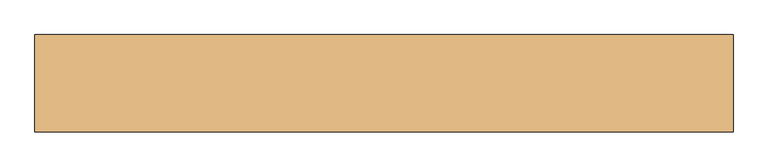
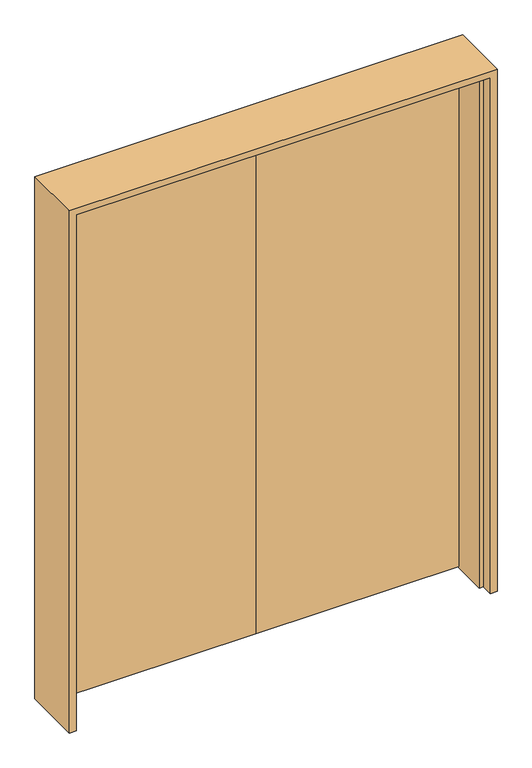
"""IFC4 building model written with IfcOpenShell, lengths in millimetres: door geometry, B1 両開 フラッシュ_A1枠 : SD12-H2000W1500 2."""

import ifcopenshell
import ifcopenshell.guid

model = None  # the IFC model being written
_history = None  # IfcOwnerHistory: only IFC2X3 demands one
_inside = {}  # id of a spatial element -> (the spatial element, [elements in it])
_under = {}  # id of a project, library or spatial element -> (it, [spatial elements below it])
_declared = {}  # id of a project -> (the project, [libraries it declares])
_typed = {}  # id of a type object -> (the type object, [elements of that type])
_made_of = {}  # id of a material, layer set ... -> (it, [elements and type objects made of it])


def new_model(schema):
    """Start an empty IFC model of exactly this schema.

    Asked for "IFC4X3", IfcOpenShell would pick the latest addendum, in which some entities
    have other attributes; the version numbers below select the first issue.
    IFC2X3 requires an IfcOwnerHistory on every rooted entity: one is made here for all.
    """
    global model, _history
    if schema == "IFC4X3":
        model = ifcopenshell.file(schema_version=(4, 3, 0, 0))
    else:
        model = ifcopenshell.file(schema=schema)
    _inside.clear()
    _under.clear()
    _declared.clear()
    _typed.clear()
    _made_of.clear()
    _history = None
    if model.schema == "IFC2X3":
        org = make("IfcOrganization", Name="unknown")
        user = make(
            "IfcPersonAndOrganization",
            ThePerson=make("IfcPerson", FamilyName="unknown"),
            TheOrganization=org,
        )
        app = make(
            "IfcApplication",
            ApplicationDeveloper=org,
            Version="unknown",
            ApplicationFullName="unknown",
            ApplicationIdentifier="unknown",
        )
        _history = make(
            "IfcOwnerHistory",
            OwningUser=user,
            OwningApplication=app,
            ChangeAction="ADDED",
            CreationDate=0,
        )
    return model


def make(cls, **values):
    """One entity of the class cls with the attributes given. An attribute that is None is left unset."""
    return model.create_entity(
        cls, **{name: value for name, value in values.items() if value is not None}
    )


def rooted(cls, **values):
    """An entity with a GlobalId (a new one), such as an element, a storey or a relation."""
    return make(cls, GlobalId=ifcopenshell.guid.new(), OwnerHistory=_history, **values)


def si_unit(unit_type, name, prefix=None):
    """IfcSIUnit, for example si_unit("LENGTHUNIT", "METRE", prefix="MILLI")."""
    return make("IfcSIUnit", UnitType=unit_type, Prefix=prefix, Name=name)


def assignment(units):
    """IfcUnitAssignment: the units of a project."""
    return None if units is None else make("IfcUnitAssignment", Units=units)


def point(xyz):
    """IfcCartesianPoint."""
    return None if xyz is None else make("IfcCartesianPoint", Coordinates=xyz)


def direction(xyz):
    """IfcDirection."""
    return None if xyz is None else make("IfcDirection", DirectionRatios=xyz)


def frame(location, z_axis=None, x_axis=None):
    """IfcAxis2Placement3D, a coordinate frame: its origin and axes. An axis left out is left unset."""
    return make(
        "IfcAxis2Placement3D",
        Location=point(location),
        Axis=direction(z_axis),
        RefDirection=direction(x_axis),
    )


def origin():
    """The frame at (0, 0, 0) with its axes left unset."""
    return frame((0.0, 0.0, 0.0))


def place(relative_to, where):
    """IfcLocalPlacement: puts the frame where relative to a parent placement (None: the world)."""
    return make(
        "IfcLocalPlacement", PlacementRelTo=relative_to, RelativePlacement=where
    )


def context(
    kind, dimensions, precision=None, world=None, true_north=None, identifier=None
):
    """IfcGeometricRepresentationContext, for example the 3D "Model" context."""
    return make(
        "IfcGeometricRepresentationContext",
        ContextIdentifier=identifier,
        ContextType=kind,
        CoordinateSpaceDimension=dimensions,
        Precision=precision,
        WorldCoordinateSystem=world,
        TrueNorth=true_north,
    )


def project(units=None, contexts=None):
    """IfcProject with its units and contexts."""
    return rooted(
        "IfcProject",
        Name="project",
        RepresentationContexts=contexts,
        UnitsInContext=assignment(units),
    )


def spatial(cls, under=None, at=None, **own):
    """A site, building, storey or space (cls), placed at a placement, below another one or the project."""
    s = rooted(cls, ObjectPlacement=at, **own)
    if under is not None:
        _under.setdefault(under.id(), (under, []))[1].append(s)
    return s


def polyline(points):
    """IfcPolyline through the points."""
    return make("IfcPolyline", Points=[point(p) for p in points])


def outline(outer, holes=None, kind="AREA"):
    """IfcArbitraryClosedProfileDef: a profile drawn as a closed curve; with holes, ...WithVoids."""
    if holes is None:
        return make("IfcArbitraryClosedProfileDef", ProfileType=kind, OuterCurve=outer)
    return make(
        "IfcArbitraryProfileDefWithVoids",
        ProfileType=kind,
        OuterCurve=outer,
        InnerCurves=holes,
    )


def extrude(swept, where, along, depth):
    """IfcExtrudedAreaSolid: the profile swept, set in the frame where, extruded along a direction by depth."""
    return make(
        "IfcExtrudedAreaSolid",
        SweptArea=swept,
        Position=where,
        ExtrudedDirection=direction(along),
        Depth=depth,
    )


def faces_of(points, faces, orient=None, outer=None):
    """IfcFace entities. A face is a list of loops; a loop is a list of indices into points, from 0.

    orient and outer hold one flag for each loop. By default every Orientation is true, the
    first loop of a face is its IfcFaceOuterBound and the others are IfcFaceBound.
    """
    made = []
    for i, loops in enumerate(faces):
        bounds = []
        for j, loop in enumerate(loops):
            is_outer = j == 0 if outer is None else outer[i][j]
            bounds.append(
                make(
                    "IfcFaceOuterBound" if is_outer else "IfcFaceBound",
                    Bound=make("IfcPolyLoop", Polygon=[points[k] for k in loop]),
                    Orientation=True if orient is None else orient[i][j],
                )
            )
        made.append(make("IfcFace", Bounds=bounds))
    return made


def faceted_brep(points, faces, orient=None, outer=None, voids=None):
    """IfcFacetedBrep: a solid bounded by flat faces; with voids (closed shells), ...WithVoids."""
    shared = [point(p) for p in points]
    hull = make("IfcClosedShell", CfsFaces=faces_of(shared, faces, orient, outer))
    if voids is None:
        return make("IfcFacetedBrep", Outer=hull)
    return make(
        "IfcFacetedBrepWithVoids",
        Outer=hull,
        Voids=[
            make(cls, CfsFaces=faces_of(shared, fs, o, b)) for cls, fs, o, b in voids
        ],
    )


def shape(context_of_items, identifier, shape_type, items):
    """IfcShapeRepresentation: the items that make up one representation, for example the "Body"."""
    return make(
        "IfcShapeRepresentation",
        ContextOfItems=context_of_items,
        RepresentationIdentifier=identifier,
        RepresentationType=shape_type,
        Items=items,
    )


def source(mapping_origin, context_of_items, identifier, shape_type, items):
    """IfcRepresentationMap: a shape defined once, which mapped items show again and again."""
    return make(
        "IfcRepresentationMap",
        MappingOrigin=mapping_origin,
        MappedRepresentation=shape(context_of_items, identifier, shape_type, items),
    )


def transform(
    local_origin,
    x_axis=None,
    y_axis=None,
    z_axis=None,
    scale=None,
    scale2=None,
    scale3=None,
    uniform=True,
):
    """IfcCartesianTransformationOperator3D, or its non-uniform kind. x_axis, y_axis, z_axis: its Axis1, 2, 3."""
    if uniform:
        return make(
            "IfcCartesianTransformationOperator3D",
            Axis1=direction(x_axis),
            Axis2=direction(y_axis),
            LocalOrigin=point(local_origin),
            Scale=scale,
            Axis3=direction(z_axis),
        )
    return make(
        "IfcCartesianTransformationOperator3DnonUniform",
        Axis1=direction(x_axis),
        Axis2=direction(y_axis),
        LocalOrigin=point(local_origin),
        Scale=scale,
        Axis3=direction(z_axis),
        Scale2=scale2,
        Scale3=scale3,
    )


def mapped(mapping_source, mapping_target):
    """IfcMappedItem: shows the shape of a source again, moved by a transform."""
    return make(
        "IfcMappedItem", MappingSource=mapping_source, MappingTarget=mapping_target
    )


def made_of(thing, what):
    """Note that an element or type object is made of a material, layer set ...; save() writes the relation."""
    if what is not None:
        _made_of.setdefault(what.id(), (what, []))[1].append(thing)
    return thing


def element(
    cls,
    number,
    at=None,
    inside=None,
    cuts=None,
    type_object=None,
    material=None,
    context=None,
    identifier="Body",
    shape_type=None,
    held_by="IfcProductDefinitionShape",
    body=None,
    shapes=None,
    **own,
):
    """One element of the class cls, such as IfcWall. Its Tag is "e" and its number.

    at: its placement. inside: the storey or other place that contains it. cuts: it is an
    opening in that element (IfcRelVoidsElement). A single representation is given by context,
    identifier, shape_type and body (its items); several are given by shapes. held_by: the class
    of the entity that holds the representations. save() writes the other relations.
    """
    e = rooted(cls, Tag="e%d" % number, ObjectPlacement=at, **own)
    if body is not None:
        shapes = [shape(context, identifier, shape_type, body)]
    if shapes is not None:
        e.Representation = make(held_by, Representations=shapes)
    if inside is not None:
        _inside.setdefault(inside.id(), (inside, []))[1].append(e)
    if cuts is not None:
        rooted(
            "IfcRelVoidsElement", RelatingBuildingElement=cuts, RelatedOpeningElement=e
        )
    if type_object is not None:
        _typed.setdefault(type_object.id(), (type_object, []))[1].append(e)
    return made_of(e, material)


def aggregate(whole, parts):
    """IfcRelAggregates: a whole, such as a stair, and the parts it consists of."""
    return rooted("IfcRelAggregates", RelatingObject=whole, RelatedObjects=parts)


def save(model, path):
    """Write the relations noted so far, then the file.

    IfcRelAggregates (storeys below a building ...), IfcRelContainedInSpatialStructure (elements
    in a storey), IfcRelDefinesByType, IfcRelAssociatesMaterial and IfcRelDeclares: one each for
    every whole, place, type object, material and project.
    """
    for whole, parts in _under.values():
        aggregate(whole, parts)
    for where, things in _inside.values():
        rooted(
            "IfcRelContainedInSpatialStructure",
            RelatedElements=things,
            RelatingStructure=where,
        )
    for kind, things in _typed.values():
        rooted("IfcRelDefinesByType", RelatedObjects=things, RelatingType=kind)
    for what, things in _made_of.values():
        rooted("IfcRelAssociatesMaterial", RelatedObjects=things, RelatingMaterial=what)
    for by, libraries in _declared.values():
        rooted("IfcRelDeclares", RelatingContext=by, RelatedDefinitions=libraries)
    model.write(path)


def door_5dd87f21(model_context):
    return source(origin(), model_context, "Body", "SolidModel", [
        extrude(outline(polyline([(-765.0, 65.0), (-765.0, 110.0), (0.0, 110.0), (0.0, 65.0), (-765.0, 65.0)])), frame((0.0, 0.0, 5.0), z_axis=(0.0, 0.0, 1.0), x_axis=(1.0, 0.0, 0.0)), (0.0, 0.0, 1.0), 2010.0),
        extrude(outline(polyline([(765.0, 65.0), (0.0, 65.0), (0.0, 110.0), (765.0, 110.0), (765.0, 65.0)])), frame((0.0, 0.0, 5.0), z_axis=(0.0, 0.0, 1.0), x_axis=(1.0, 0.0, 0.0)), (0.0, 0.0, 1.0), 2010.0),
        faceted_brep([(-790.0, 110.0, 0.0), (-765.0, 110.0, 0.0), (-765.0, 65.0, 0.0), (-750.0, 65.0, 0.0), (-750.0, -65.0, 0.0), (-765.0, -65.0, 0.0), (-765.0, -110.0, 0.0), (-790.0, -110.0, 0.0), (-790.0, 110.0, 2040.0), (790.0, 110.0, 2040.0), (790.0, 110.0, 0.0), (765.0, 110.0, 0.0), (765.0, 110.0, 2015.0), (-765.0, 110.0, 2015.0), (-765.0, 65.0, 2015.0), (765.0, 65.0, 2015.0), (765.0, 65.0, 0.0), (750.0, 65.0, 0.0), (750.0, 65.0, 2000.0), (-750.0, 65.0, 2000.0), (-750.0, -65.0, 2000.0), (750.0, -65.0, 2000.0), (750.0, -65.0, 0.0), (765.0, -65.0, 0.0), (765.0, -65.0, 2015.0), (-765.0, -65.0, 2015.0), (-765.0, -110.0, 2015.0), (765.0, -110.0, 2015.0), (765.0, -110.0, 0.0), (790.0, -110.0, 0.0), (790.0, -110.0, 2040.0), (-790.0, -110.0, 2040.0)], [[[0, 1, 2, 3, 4, 5, 6, 7]], [[1, 0, 8, 9, 10, 11, 12, 13]], [[2, 1, 13, 14]], [[3, 2, 14, 15, 16, 17, 18, 19]], [[4, 3, 19, 20]], [[5, 4, 20, 21, 22, 23, 24, 25]], [[6, 5, 25, 26]], [[7, 6, 26, 27, 28, 29, 30, 31]], [[0, 7, 31, 8]], [[14, 13, 12, 15]], [[20, 19, 18, 21]], [[26, 25, 24, 27]], [[8, 31, 30, 9]], [[10, 29, 28, 23, 22, 17, 16, 11]], [[15, 12, 11, 16]], [[21, 18, 17, 22]], [[27, 24, 23, 28]], [[9, 30, 29, 10]]]),
    ])


if __name__ == "__main__":
    model = new_model("IFC4")
    model_context = context("Model", 3, world=origin())
    ifc_project = project(units=[si_unit("LENGTHUNIT", "METRE", prefix="MILLI")], contexts=[model_context])
    site = spatial("IfcSite", under=ifc_project)
    building = spatial("IfcBuilding", under=site)
    placement = place(None, origin())
    door_shape = door_5dd87f21(model_context)
    element("IfcDoor", 1, ObjectType="B1 両開 フラッシュ_A1枠 : SD12-H2000W1500 2", at=placement, inside=building, context=model_context, shape_type="MappedRepresentation", body=[
        mapped(door_shape, transform((0.0, 0.0, 0.0), x_axis=(1.0, 0.0, 0.0), y_axis=(0.0, 1.0, 0.0), z_axis=(0.0, 0.0, 1.0))),
    ])
    save(model, "model.ifc")
